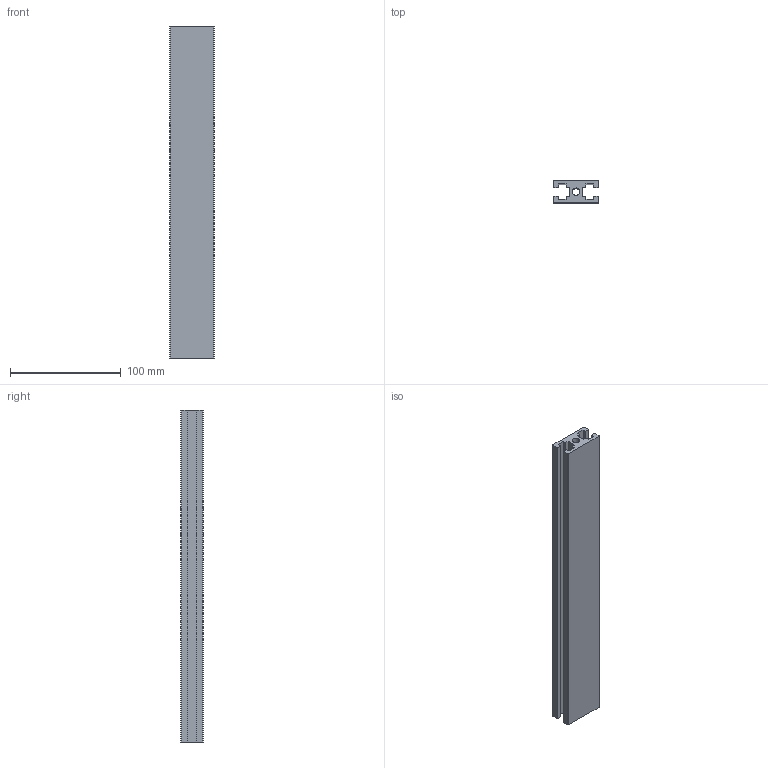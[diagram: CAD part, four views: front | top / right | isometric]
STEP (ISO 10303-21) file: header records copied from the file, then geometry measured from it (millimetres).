
FILE_DESCRIPTION (( 'STEP AP203' ), '1' );
FILE_NAME ('8-CG-2040H-8.STEP', '2015-07-07T02:41:01', ( '' ), ( '' ), 'SwSTEP 2.0', 'SolidWorks 2013', '' );
FILE_SCHEMA (( 'CONFIG_CONTROL_DESIGN' ));
Length unit declared in the file: millimetre
Products named in the file (1): 8-CG-2040H-8
Bounding box: 40 x 20 x 300 mm (x, y, z)
Volume: 135800.6 mm3; surface area: 66816.7 mm2
Topology: 1 solids, 1 shells, 36 faces, 102 edges, 68 vertices
Faces by surface type: plane 30, cylinder 6
Entity records: 1239 total; most frequent: CARTESIAN_POINT 207, ORIENTED_EDGE 204, DIRECTION 188, EDGE_CURVE 102, VECTOR 90, LINE 90, VERTEX_POINT 68, AXIS2_PLACEMENT_3D 49
